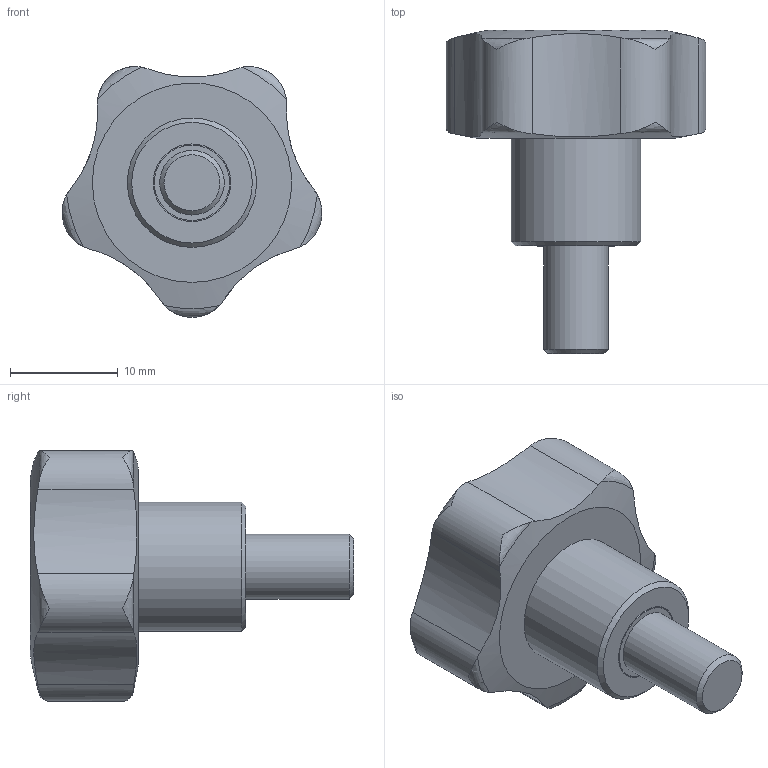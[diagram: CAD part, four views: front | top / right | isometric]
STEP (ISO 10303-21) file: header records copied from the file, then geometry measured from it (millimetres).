
FILE_DESCRIPTION( ( 'STEP AP203' ), '1' );
FILE_NAME( 'C:/Temp/Ganter_Step_05_03_2020/data/2_2/gn_5337_4/gn_5337_4_s/Star knob GN 5337.4-25-M6-10.stp', '2020-03-05T12:09:39', ( 'License CC BY-ND 4.0' ), ( 'CADENAS' ), ' ', 'PARTsolutions', ' ' );
FILE_SCHEMA( ( 'CONFIG_CONTROL_DESIGN' ) );
Length unit declared in the file: millimetre
Products named in the file (1): _Star knob GN 5337.4-25-M6-10
Bounding box: 24.11 x 30 x 23.28 mm (x, y, z)
Volume: 5097.5 mm3; surface area: 2012.4 mm2
Topology: 1 solids, 1 shells, 34 faces, 95 edges, 66 vertices
Faces by surface type: cylinder 14, torus 10, plane 5, cone 3, bspline 1, sphere 1
Full cylindrical faces by diameter (mm): 6 x1, 7 x1, 7.2 x1, 12 x1
Entity records: 1417 total; most frequent: CARTESIAN_POINT 629, ORIENTED_EDGE 164, DIRECTION 122, EDGE_CURVE 82, VERTEX_POINT 63, AXIS2_PLACEMENT_3D 56, B_SPLINE_CURVE_WITH_KNOTS 50, EDGE_LOOP 46
